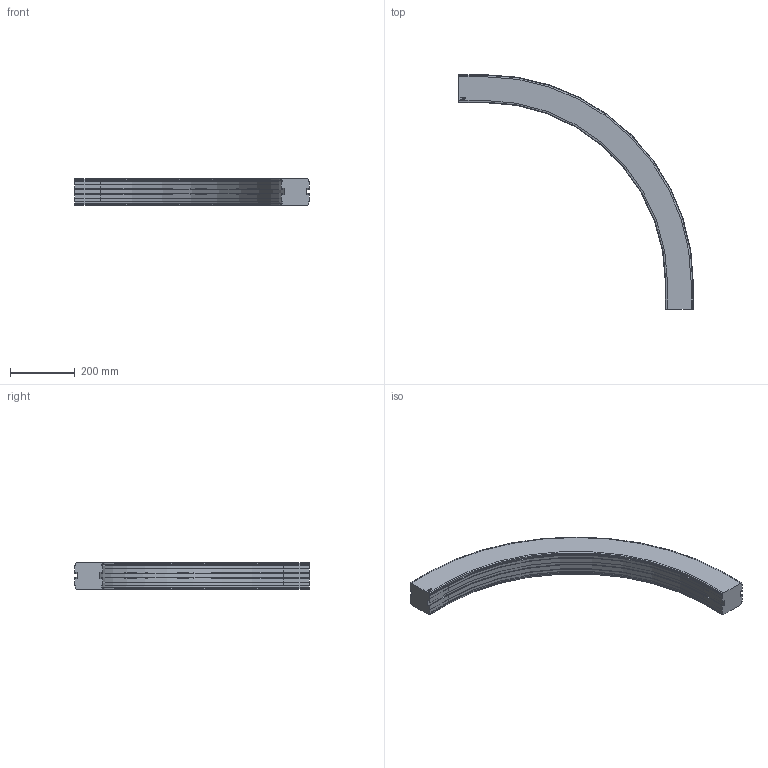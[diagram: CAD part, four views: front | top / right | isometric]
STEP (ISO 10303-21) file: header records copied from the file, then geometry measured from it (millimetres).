
FILE_DESCRIPTION((''),'2;1');
FILE_NAME('C:\Vault Klient\Projekt\Koncept konstruktion\Serie 830 Balk\830-5360.stp','2009-11-27T10:27:31',('Mathias'),(''),'Autodesk Inventor 2010','Autodesk Inventor 2010','');
FILE_SCHEMA(('AUTOMOTIVE_DESIGN { 1 0 10303 214 1 1 1 1 }'));
Length unit declared in the file: millimetre
Products named in the file (1): 830-5360
Bounding box: 723 x 723 x 81.5 mm (x, y, z)
Volume: 7328040.7 mm3; surface area: 463768.7 mm2
Topology: 1 solids, 1 shells, 169 faces, 446 edges, 284 vertices
Faces by surface type: plane 109, cylinder 30, bspline 14, cone 12, torus 4
Entity records: 5295 total; most frequent: CARTESIAN_POINT 1094, ORIENTED_EDGE 892, DIRECTION 802, EDGE_CURVE 446, VECTOR 346, LINE 346, VERTEX_POINT 284, AXIS2_PLACEMENT_3D 228
